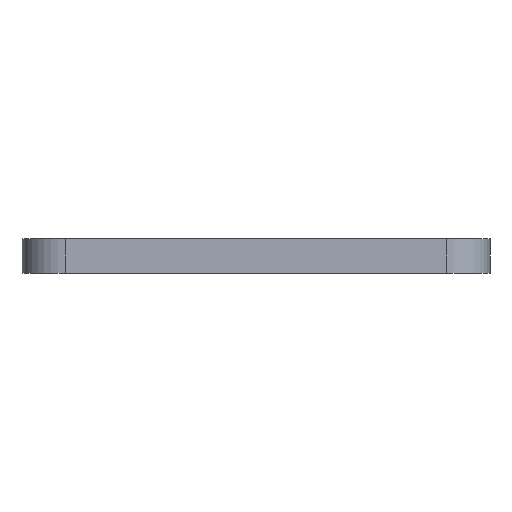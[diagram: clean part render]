
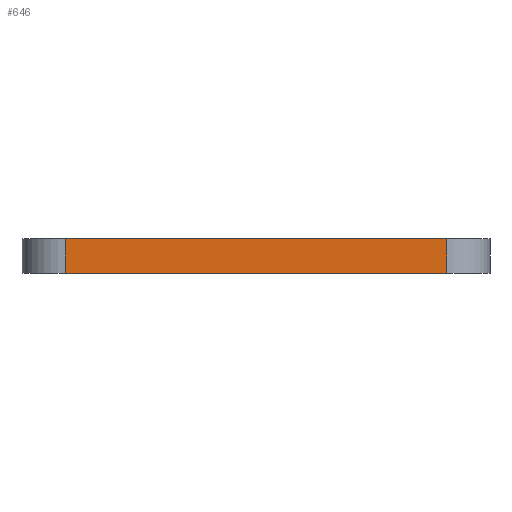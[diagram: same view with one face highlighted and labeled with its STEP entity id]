
A CAD part, left-side view. The second image highlights one B-rep face of the part: STEP entity #646.
In plain terms, the highlighted planar face has unit normal (-1, 0, 0).
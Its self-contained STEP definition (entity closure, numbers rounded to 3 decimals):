
#219 = VERTEX_POINT ( 'NONE', #1615 ) ;
#286 = LINE ( 'NONE', #4836, #2818 ) ;
#291 = LINE ( 'NONE', #661, #2995 ) ;
#543 = EDGE_CURVE ( 'NONE', #4282, #1084, #3084, .T. ) ;
#646 = ADVANCED_FACE ( 'NONE', ( #1658 ), #2194, .T. ) ;
#661 = CARTESIAN_POINT ( 'NONE',  ( -34.9, 0., 4. ) ) ;
#1084 = VERTEX_POINT ( 'NONE', #4550 ) ;
#1394 = EDGE_CURVE ( 'NONE', #5584, #219, #286, .T. ) ;
#1497 = CARTESIAN_POINT ( 'NONE',  ( -34.9, 0., 0. ) ) ;
#1615 = CARTESIAN_POINT ( 'NONE',  ( -34.9, -21.9, 4. ) ) ;
#1629 = CARTESIAN_POINT ( 'NONE',  ( -34.9, 21.9, -6. ) ) ;
#1658 = FACE_OUTER_BOUND ( 'NONE', #3054, .T. ) ;
#1723 = DIRECTION ( 'NONE',  ( -1., 0., 0. ) ) ;
#1852 = DIRECTION ( 'NONE',  ( 0., -1., 0. ) ) ;
#2005 = ORIENTED_EDGE ( 'NONE', *, *, #5573, .F. ) ;
#2025 = DIRECTION ( 'NONE',  ( 0., 0., 1. ) ) ;
#2092 = CARTESIAN_POINT ( 'NONE',  ( -34.9, -21.9, 0. ) ) ;
#2096 = ORIENTED_EDGE ( 'NONE', *, *, #2255, .T. ) ;
#2194 = PLANE ( 'NONE',  #5465 ) ;
#2255 = EDGE_CURVE ( 'NONE', #4282, #5584, #3241, .T. ) ;
#2607 = CARTESIAN_POINT ( 'NONE',  ( -34.9, 0., -6. ) ) ;
#2818 = VECTOR ( 'NONE', #2025, 1000. ) ;
#2909 = VECTOR ( 'NONE', #3953, 1000. ) ;
#2995 = VECTOR ( 'NONE', #3405, 1000. ) ;
#3054 = EDGE_LOOP ( 'NONE', ( #2096, #3429, #2005, #4255 ) ) ;
#3084 = LINE ( 'NONE', #1629, #2909 ) ;
#3241 = LINE ( 'NONE', #1497, #5204 ) ;
#3405 = DIRECTION ( 'NONE',  ( 0., -1., 0. ) ) ;
#3429 = ORIENTED_EDGE ( 'NONE', *, *, #1394, .T. ) ;
#3953 = DIRECTION ( 'NONE',  ( 0., 0., 1. ) ) ;
#4255 = ORIENTED_EDGE ( 'NONE', *, *, #543, .F. ) ;
#4282 = VERTEX_POINT ( 'NONE', #5412 ) ;
#4410 = DIRECTION ( 'NONE',  ( 0., 0., 1. ) ) ;
#4550 = CARTESIAN_POINT ( 'NONE',  ( -34.9, 21.9, 4. ) ) ;
#4836 = CARTESIAN_POINT ( 'NONE',  ( -34.9, -21.9, -6. ) ) ;
#5204 = VECTOR ( 'NONE', #1852, 1000. ) ;
#5412 = CARTESIAN_POINT ( 'NONE',  ( -34.9, 21.9, 0. ) ) ;
#5465 = AXIS2_PLACEMENT_3D ( 'NONE', #2607, #1723, #4410 ) ;
#5573 = EDGE_CURVE ( 'NONE', #1084, #219, #291, .T. ) ;
#5584 = VERTEX_POINT ( 'NONE', #2092 ) ;
